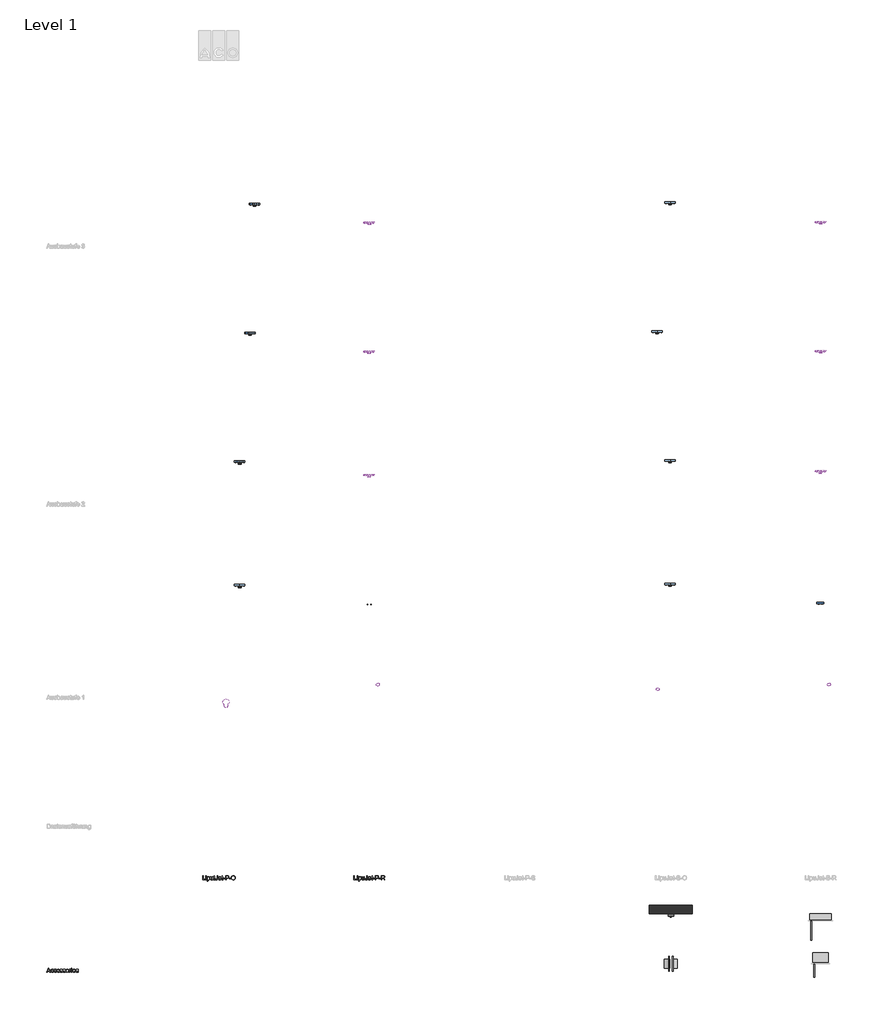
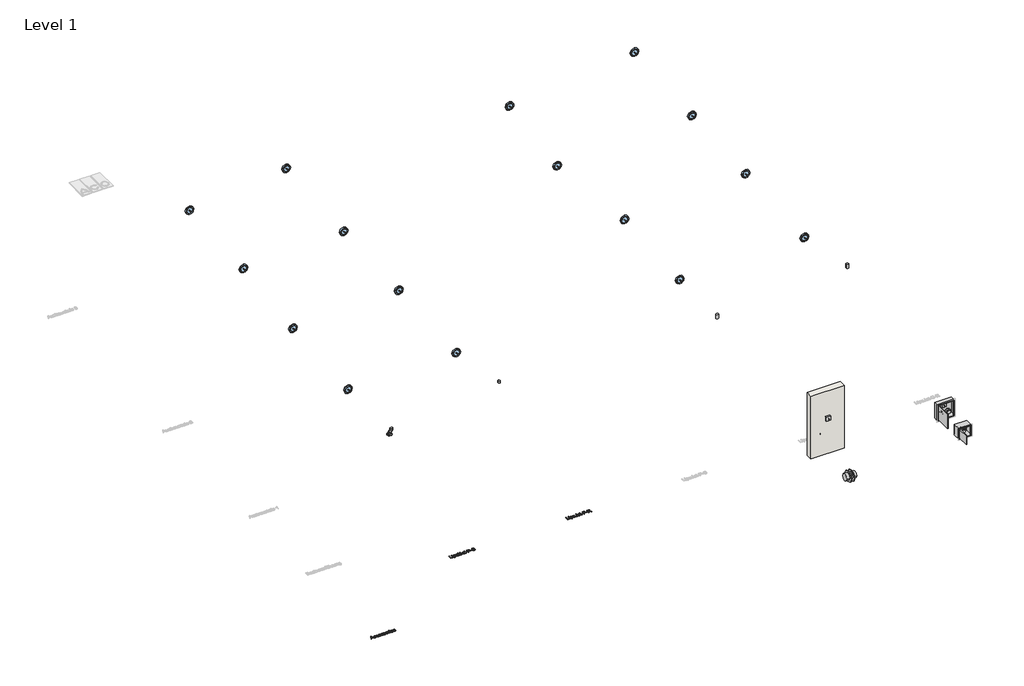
# One storey, part 1 of 3: 16 windows, 5 proxies, 4 unitary equipment elements, 2 furniture elements, 2 pipe fittings, 1 wall.
"""IFC4 building model written with IfcOpenShell, lengths in millimetres."""

from ifc_helpers import new_model, si_unit, origin, origin_with_axes, place, context, project, spatial, polyline, outline, extrude, transform, mapped, element, save
from components import cd_pvc_remote_control_aco_std_7b1f1c58, furniture_370x330x250_330b71c9, furniture_500x500x160_cb3627f5, std_2dac5c2e, ns2_aebbb962, ns2_601247f1, ns4_c199ca5a, ns4_fcfb2e82, std_43f00bc0

model = new_model("IFC4")

# Units and contexts
model_context = context("Model", 3, world=origin())
ifc_project = project(units=[si_unit("LENGTHUNIT", "METRE", prefix="MILLI")], contexts=[model_context])

# Site, building, storey
site = spatial("IfcSite", under=ifc_project)
building = spatial("IfcBuilding", under=site)
storey = spatial("IfcBuildingStorey", under=building, Name="Level 1", Elevation=0.0)

# Proxies
placement = place(None, origin())
element("IfcBuildingElementProxy", 1, Name="100mm ACO", ObjectType="100mm ACO", at=placement, inside=storey, context=model_context, shape_type="SweptSolid", body=[
    extrude(outline(polyline([(683.3333333, -350.0), (620.3703704, -350.0), (620.3703704, -250.0), (633.3333333, -250.0), (633.3333333, -338.8888889), (683.3333333, -338.8888889), (683.3333333, -350.0)])), origin_with_axes(), (0.0, 0.0, 1.0), 10.0),
    extrude(outline(polyline([(709.2592593, -350.0), (696.2962963, -350.0), (696.2962963, -277.7777778), (709.2592593, -277.7777778), (709.2592593, -350.0)])), origin_with_axes(), (0.0, 0.0, 1.0), 10.0),
    extrude(outline(polyline([(709.2592593, -262.962963), (696.2962963, -262.962963), (696.2962963, -250.0), (709.2592593, -250.0), (709.2592593, -262.962963)])), origin_with_axes(), (0.0, 0.0, 1.0), 10.0),
    extrude(outline(polyline([(740.8709491, -286.4872685), (749.3272569, -278.5662616), (760.9953704, -275.9259259), (773.3217593, -278.515625), (782.7546296, -286.2847222), (788.744213, -298.2132523), (790.7407407, -313.28125), (788.4837963, -329.1702836), (781.712963, -341.4207176), (771.6579861, -349.2440683), (759.5486111, -351.8518519), (749.1753472, -349.7251157), (741.087963, -343.3449074), (740.7407407, -377.7777778), (727.7777778, -377.7777778), (727.7777778, -277.7777778), (740.7407407, -277.7777778), (740.8709491, -286.4872685)]), holes=[polyline([(758.130787, -342.5925926), (765.9035012, -340.766059), (772.2077546, -335.2864583), (776.385272, -326.1899595), (777.7777778, -313.5127315), (776.4359086, -301.4359086), (772.4103009, -292.5202546), (766.2941262, -287.0189525), (758.6805556, -285.1851852), (750.7993345, -287.2287326), (744.458912, -293.359375), (740.2813947, -302.7452257), (738.8888889, -314.5543981), (740.2235243, -326.66739), (744.2274306, -335.4600694), (750.3725405, -340.8094618), (758.130787, -342.5925926)])]), origin_with_axes(), (0.0, 0.0, 1.0), 10.0),
    extrude(outline(polyline([(864.8148148, -350.0), (853.7037037, -350.0), (853.7037037, -339.4965278), (843.4606481, -348.7630208), (830.4976852, -351.8518519), (816.3773148, -348.3362269), (807.7256944, -338.6574074), (805.5555556, -322.65625), (805.5555556, -277.7777778), (818.5185185, -277.7777778), (818.5185185, -318.75), (819.4155093, -332.8414352), (824.1030093, -339.84375), (833.130787, -342.5925926), (845.8767361, -337.6736111), (850.3580729, -330.1215278), (851.8518519, -317.3032407), (851.8518519, -277.7777778), (864.8148148, -277.7777778), (864.8148148, -350.0)])), origin_with_axes(), (0.0, 0.0, 1.0), 10.0),
    extrude(outline(polyline([(911.1111111, -351.0127315), (902.025463, -351.8518519), (890.4369213, -348.9728009), (885.9953704, -341.6666667), (885.1851852, -329.3402778), (885.1851852, -287.037037), (875.9259259, -287.037037), (875.9259259, -277.7777778), (885.1851852, -277.7777778), (885.1851852, -259.4328704), (898.1481481, -251.8518519), (898.1481481, -277.7777778), (909.2592593, -277.7777778), (909.2592593, -287.037037), (898.1481481, -287.037037), (898.1481481, -331.9444444), (899.1898148, -340.162037), (904.4849537, -342.5925926), (909.5196759, -342.5925926), (911.1111111, -351.0127315)])), origin_with_axes(), (0.0, 0.0, 1.0), 10.0),
    extrude(outline(polyline([(972.2222222, -318.1134259), (970.348669, -333.8143808), (964.7280093, -344.1695602), (955.7653356, -349.9312789), (943.8657407, -351.8518519), (931.9661458, -349.9891493), (923.4664352, -344.4010417), (918.3666088, -335.0730613), (916.6666667, -321.9907407), (929.6296296, -320.3703704), (933.4924769, -335.6481481), (944.5601852, -340.7407407), (954.4994213, -337.5), (958.5069444, -330.0202546), (959.2592593, -319.4444444), (959.2592593, -250.0), (972.2222222, -250.0), (972.2222222, -318.1134259)])), origin_with_axes(), (0.0, 0.0, 1.0), 10.0),
    extrude(outline(polyline([(1053.7037037, -316.6666667), (1000.0, -316.6666667), (1002.0724826, -327.7922454), (1006.7853009, -335.9375), (1013.566985, -340.9288194), (1021.8460648, -342.5925926), (1033.521412, -338.9033565), (1040.7407407, -327.7777778), (1053.7037037, -329.2824074), (1049.3272569, -338.9033565), (1042.3900463, -346.0069444), (1033.1452546, -350.390625), (1021.8460648, -351.8518519), (1007.2591146, -349.3453414), (996.2528935, -341.8258102), (989.3410012, -329.9660012), (987.037037, -314.4386574), (989.2578125, -298.900463), (995.9201389, -286.6030093), (1006.6189236, -278.5951968), (1020.9490741, -275.9259259), (1036.1689815, -279.3836806), (1048.5966435, -291.1603009), (1052.4269387, -301.6963252), (1053.7037037, -316.6666667)]), holes=[polyline([(1040.7407407, -307.4074074), (1038.6574074, -297.2511574), (1033.912037, -290.3935185), (1020.630787, -285.1851852), (1012.7748843, -286.7332176), (1006.4525463, -291.3773148), (1000.0, -307.4074074), (1040.7407407, -307.4074074)])]), origin_with_axes(), (0.0, 0.0, 1.0), 10.0),
    extrude(outline(polyline([(1096.2962963, -351.0127315), (1087.2106481, -351.8518519), (1075.6221065, -348.9728009), (1071.1805556, -341.6666667), (1070.3703704, -329.3402778), (1070.3703704, -287.037037), (1061.1111111, -287.037037), (1061.1111111, -277.7777778), (1070.3703704, -277.7777778), (1070.3703704, -259.4328704), (1083.3333333, -251.8518519), (1083.3333333, -277.7777778), (1094.4444444, -277.7777778), (1094.4444444, -287.037037), (1083.3333333, -287.037037), (1083.3333333, -331.9444444), (1084.375, -340.162037), (1089.6701389, -342.5925926), (1094.7048611, -342.5925926), (1096.2962963, -351.0127315)])), origin_with_axes(), (0.0, 0.0, 1.0), 10.0),
    extrude(outline(polyline([(1140.7407407, -316.6666667), (1101.8518519, -316.6666667), (1101.8518519, -307.4074074), (1140.7407407, -307.4074074), (1140.7407407, -316.6666667)])), origin_with_axes(), (0.0, 0.0, 1.0), 10.0),
    extrude(outline(polyline([(1155.5555556, -250.0), (1193.1134259, -250.0), (1208.4201389, -250.8825231), (1220.3414352, -255.46875), (1228.6603009, -265.5237269), (1231.4814815, -278.8194444), (1229.2570891, -291.2507234), (1222.583912, -300.9403935), (1211.0062211, -307.1795428), (1194.068287, -309.2592593), (1168.5185185, -309.2592593), (1168.5185185, -350.0), (1155.5555556, -350.0), (1155.5555556, -250.0)]), holes=[polyline([(1168.5185185, -298.1481481), (1194.5891204, -298.1481481), (1212.536169, -293.4100116), (1217.0229311, -287.4873409), (1218.5185185, -279.1956019), (1215.4079861, -268.2146991), (1207.7690972, -262.2829861), (1194.2997685, -261.1111111), (1168.5185185, -261.1111111), (1168.5185185, -298.1481481)])]), origin_with_axes(), (0.0, 0.0, 1.0), 10.0),
    extrude(outline(polyline([(1279.6296296, -316.6666667), (1240.7407407, -316.6666667), (1240.7407407, -307.4074074), (1279.6296296, -307.4074074), (1279.6296296, -316.6666667)])), origin_with_axes(), (0.0, 0.0, 1.0), 10.0),
    extrude(outline(polyline([(1337.1238426, -248.1481481), (1355.6134259, -251.7216435), (1370.3993056, -262.4421296), (1380.0998264, -279.0147569), (1383.3333333, -300.1446759), (1380.0817419, -321.1841725), (1370.3269676, -337.6591435), (1355.5230035, -348.3036748), (1337.1238426, -351.8518519), (1318.2508681, -348.1734664), (1303.4722222, -337.1383102), (1293.9236111, -320.808015), (1290.7407407, -301.244213), (1293.9670139, -279.1630498), (1303.6458333, -262.3408565), (1318.4678819, -251.6963252), (1337.1238426, -248.1481481)]), holes=[polyline([(1337.0081019, -340.7407407), (1350.4484954, -338.0570023), (1361.0821759, -330.005787), (1368.0193866, -317.1730324), (1370.3703704, -300.1446759), (1368.0157697, -282.7365451), (1360.9519676, -269.8640046), (1350.3219039, -261.9104456), (1337.2685185, -259.2592593), (1323.9221644, -261.8561921), (1313.1655093, -269.6469907), (1306.0691551, -282.8052662), (1303.7037037, -301.5046296), (1306.0185185, -317.3864294), (1312.962963, -329.9045139), (1323.6038773, -338.031684), (1337.0081019, -340.7407407)])]), origin_with_axes(), (0.0, 0.0, 1.0), 10.0),
])
element("IfcBuildingElementProxy", 2, Name="100mm ACO", ObjectType="100mm ACO", at=placement, inside=storey, context=model_context, shape_type="SweptSolid", body=[
    extrude(outline(polyline([(4206.4814815, -350.0), (4143.5185185, -350.0), (4143.5185185, -250.0), (4156.4814815, -250.0), (4156.4814815, -338.8888889), (4206.4814815, -338.8888889), (4206.4814815, -350.0)])), origin_with_axes(), (0.0, 0.0, 1.0), 10.0),
    extrude(outline(polyline([(4232.4074074, -350.0), (4219.4444444, -350.0), (4219.4444444, -277.7777778), (4232.4074074, -277.7777778), (4232.4074074, -350.0)])), origin_with_axes(), (0.0, 0.0, 1.0), 10.0),
    extrude(outline(polyline([(4232.4074074, -262.962963), (4219.4444444, -262.962963), (4219.4444444, -250.0), (4232.4074074, -250.0), (4232.4074074, -262.962963)])), origin_with_axes(), (0.0, 0.0, 1.0), 10.0),
    extrude(outline(polyline([(4264.0190972, -286.4872685), (4272.4754051, -278.5662616), (4284.1435185, -275.9259259), (4296.4699074, -278.515625), (4305.9027778, -286.2847222), (4311.8923611, -298.2132523), (4313.8888889, -313.28125), (4311.6319444, -329.1702836), (4304.8611111, -341.4207176), (4294.8061343, -349.2440683), (4282.6967593, -351.8518519), (4272.3234954, -349.7251157), (4264.2361111, -343.3449074), (4263.8888889, -377.7777778), (4250.9259259, -377.7777778), (4250.9259259, -277.7777778), (4263.8888889, -277.7777778), (4264.0190972, -286.4872685)]), holes=[polyline([(4281.2789352, -342.5925926), (4289.0516493, -340.766059), (4295.3559028, -335.2864583), (4299.5334201, -326.1899595), (4300.9259259, -313.5127315), (4299.5840567, -301.4359086), (4295.5584491, -292.5202546), (4289.4422743, -287.0189525), (4281.8287037, -285.1851852), (4273.9474826, -287.2287326), (4267.6070602, -293.359375), (4263.4295428, -302.7452257), (4262.037037, -314.5543981), (4263.3716725, -326.66739), (4267.3755787, -335.4600694), (4273.5206887, -340.8094618), (4281.2789352, -342.5925926)])]), origin_with_axes(), (0.0, 0.0, 1.0), 10.0),
    extrude(outline(polyline([(4387.962963, -350.0), (4376.8518519, -350.0), (4376.8518519, -339.4965278), (4366.6087963, -348.7630208), (4353.6458333, -351.8518519), (4339.525463, -348.3362269), (4330.8738426, -338.6574074), (4328.7037037, -322.65625), (4328.7037037, -277.7777778), (4341.6666667, -277.7777778), (4341.6666667, -318.75), (4342.5636574, -332.8414352), (4347.2511574, -339.84375), (4356.2789352, -342.5925926), (4369.0248843, -337.6736111), (4373.5062211, -330.1215278), (4375.0, -317.3032407), (4375.0, -277.7777778), (4387.962963, -277.7777778), (4387.962963, -350.0)])), origin_with_axes(), (0.0, 0.0, 1.0), 10.0),
    extrude(outline(polyline([(4456.4814815, -318.1134259), (4454.6079282, -333.8143808), (4448.9872685, -344.1695602), (4440.0245949, -349.9312789), (4428.125, -351.8518519), (4416.2254051, -349.9891493), (4407.7256944, -344.4010417), (4402.6258681, -335.0730613), (4400.9259259, -321.9907407), (4413.8888889, -320.3703704), (4417.7517361, -335.6481481), (4428.8194444, -340.7407407), (4438.7586806, -337.5), (4442.7662037, -330.0202546), (4443.5185185, -319.4444444), (4443.5185185, -250.0), (4456.4814815, -250.0), (4456.4814815, -318.1134259)])), origin_with_axes(), (0.0, 0.0, 1.0), 10.0),
    extrude(outline(polyline([(4537.962963, -316.6666667), (4484.2592593, -316.6666667), (4486.3317419, -327.7922454), (4491.0445602, -335.9375), (4497.8262442, -340.9288194), (4506.1053241, -342.5925926), (4517.7806713, -338.9033565), (4525.0, -327.7777778), (4537.962963, -329.2824074), (4533.5865162, -338.9033565), (4526.6493056, -346.0069444), (4517.4045139, -350.390625), (4506.1053241, -351.8518519), (4491.5183738, -349.3453414), (4480.5121528, -341.8258102), (4473.6002604, -329.9660012), (4471.2962963, -314.4386574), (4473.5170718, -298.900463), (4480.1793981, -286.6030093), (4490.8781829, -278.5951968), (4505.2083333, -275.9259259), (4520.4282407, -279.3836806), (4532.8559028, -291.1603009), (4536.6861979, -301.6963252), (4537.962963, -316.6666667)]), holes=[polyline([(4525.0, -307.4074074), (4522.9166667, -297.2511574), (4518.1712963, -290.3935185), (4504.8900463, -285.1851852), (4497.0341435, -286.7332176), (4490.7118056, -291.3773148), (4484.2592593, -307.4074074), (4525.0, -307.4074074)])]), origin_with_axes(), (0.0, 0.0, 1.0), 10.0),
    extrude(outline(polyline([(4580.5555556, -351.0127315), (4571.4699074, -351.8518519), (4559.8813657, -348.9728009), (4555.4398148, -341.6666667), (4554.6296296, -329.3402778), (4554.6296296, -287.037037), (4545.3703704, -287.037037), (4545.3703704, -277.7777778), (4554.6296296, -277.7777778), (4554.6296296, -259.4328704), (4567.5925926, -251.8518519), (4567.5925926, -277.7777778), (4578.7037037, -277.7777778), (4578.7037037, -287.037037), (4567.5925926, -287.037037), (4567.5925926, -331.9444444), (4568.6342593, -340.162037), (4573.9293981, -342.5925926), (4578.9641204, -342.5925926), (4580.5555556, -351.0127315)])), origin_with_axes(), (0.0, 0.0, 1.0), 10.0),
    extrude(outline(polyline([(4625.0, -316.6666667), (4586.1111111, -316.6666667), (4586.1111111, -307.4074074), (4625.0, -307.4074074), (4625.0, -316.6666667)])), origin_with_axes(), (0.0, 0.0, 1.0), 10.0),
    extrude(outline(polyline([(4639.8148148, -250.0), (4677.3726852, -250.0), (4692.6793981, -250.8825231), (4704.6006944, -255.46875), (4712.9195602, -265.5237269), (4715.7407407, -278.8194444), (4713.5163484, -291.2507234), (4706.8431713, -300.9403935), (4695.2654803, -307.1795428), (4678.3275463, -309.2592593), (4652.7777778, -309.2592593), (4652.7777778, -350.0), (4639.8148148, -350.0), (4639.8148148, -250.0)]), holes=[polyline([(4652.7777778, -298.1481481), (4678.8483796, -298.1481481), (4696.7954282, -293.4100116), (4701.2821904, -287.4873409), (4702.7777778, -279.1956019), (4699.6672454, -268.2146991), (4692.0283565, -262.2829861), (4678.5590278, -261.1111111), (4652.7777778, -261.1111111), (4652.7777778, -298.1481481)])]), origin_with_axes(), (0.0, 0.0, 1.0), 10.0),
    extrude(outline(polyline([(4763.8888889, -316.6666667), (4725.0, -316.6666667), (4725.0, -307.4074074), (4763.8888889, -307.4074074), (4763.8888889, -316.6666667)])), origin_with_axes(), (0.0, 0.0, 1.0), 10.0),
    extrude(outline(polyline([(4866.2037037, -350.0), (4851.2152778, -350.0), (4832.4508102, -320.1388889), (4824.681713, -311.009838), (4816.9560185, -306.4959491), (4807.3784722, -305.5555556), (4791.6666667, -305.5555556), (4791.6666667, -350.0), (4778.7037037, -350.0), (4778.7037037, -250.0), (4822.8298611, -250.0), (4838.0063657, -251.1429398), (4848.7413194, -255.9461806), (4855.8449074, -265.1765046), (4858.3333333, -276.9097222), (4856.5176505, -286.9610822), (4851.0706019, -294.8350694), (4842.2019676, -300.3797743), (4830.1215278, -303.443287), (4839.7786458, -310.9302662), (4848.8425926, -322.5983796), (4866.2037037, -350.0)]), holes=[polyline([(4791.6666667, -294.4444444), (4820.4282407, -294.4444444), (4834.2158565, -292.96875), (4842.3321759, -287.2251157), (4845.3703704, -277.6331019), (4840.3211806, -265.9288194), (4833.6335359, -262.3155382), (4823.6689815, -261.1111111), (4791.6666667, -261.1111111), (4791.6666667, -294.4444444)])]), origin_with_axes(), (0.0, 0.0, 1.0), 10.0),
])
element("IfcBuildingElementProxy", 3, Name="100mm ACO", ObjectType="100mm ACO", at=placement, inside=storey, context=model_context, shape_type="SweptSolid", body=[
    extrude(outline(polyline([(-2915.72885, -2500.0), (-2929.5309333, -2500.0), (-2941.5101, -2470.3703704), (-2983.9580167, -2470.3703704), (-2995.4742204, -2500.0), (-3009.2473685, -2500.0), (-2970.3874148, -2400.0), (-2956.2091741, -2400.0), (-2915.72885, -2500.0)]), holes=[polyline([(-2946.0239889, -2459.2592593), (-2960.4481787, -2422.5983796), (-2963.4140352, -2410.9375), (-2968.0726, -2429.5138889), (-2979.6177389, -2459.2592593), (-2946.0239889, -2459.2592593)])]), origin_with_axes(), (0.0, 0.0, 1.0), 10.0),
    extrude(outline(polyline([(-2845.8214426, -2475.5497685), (-2849.8506671, -2487.3553241), (-2857.0193593, -2495.5150463), (-2866.3437227, -2500.2676505), (-2876.8399611, -2501.8518519), (-2891.155644, -2499.2621528), (-2901.8110259, -2491.4930556), (-2908.4299495, -2479.4487847), (-2910.6362574, -2464.0335648), (-2905.6015352, -2441.3483796), (-2893.000262, -2429.3836806), (-2877.1003778, -2425.9259259), (-2857.6414657, -2431.5827546), (-2851.1057308, -2438.566985), (-2847.6732944, -2448.2060185), (-2860.6362574, -2450.0), (-2866.5390352, -2438.9033565), (-2876.9557019, -2435.1851852), (-2885.9111417, -2437.0695891), (-2892.4070907, -2442.7228009), (-2896.3567435, -2451.7541956), (-2897.6732944, -2463.7731481), (-2896.3531266, -2476.0018808), (-2892.3926231, -2485.083912), (-2885.9436937, -2490.7154225), (-2877.1582481, -2492.5925926), (-2864.556975, -2487.962963), (-2858.7844056, -2474.0740741), (-2845.8214426, -2475.5497685)])), origin_with_axes(), (0.0, 0.0, 1.0), 10.0),
    extrude(outline(polyline([(-2777.3029241, -2475.5497685), (-2781.3321486, -2487.3553241), (-2788.5008407, -2495.5150463), (-2797.8252042, -2500.2676505), (-2808.3214426, -2501.8518519), (-2822.6371255, -2499.2621528), (-2833.2925074, -2491.4930556), (-2839.911431, -2479.4487847), (-2842.1177389, -2464.0335648), (-2837.0830167, -2441.3483796), (-2824.4817435, -2429.3836806), (-2808.5818593, -2425.9259259), (-2789.1229472, -2431.5827546), (-2782.5872123, -2438.566985), (-2779.1547759, -2448.2060185), (-2792.1177389, -2450.0), (-2798.0205167, -2438.9033565), (-2808.4371833, -2435.1851852), (-2817.3926231, -2437.0695891), (-2823.8885722, -2442.7228009), (-2827.838225, -2451.7541956), (-2829.1547759, -2463.7731481), (-2827.8346081, -2476.0018808), (-2823.8741046, -2485.083912), (-2817.4251752, -2490.7154225), (-2808.6397296, -2492.5925926), (-2796.0384565, -2487.962963), (-2790.265887, -2474.0740741), (-2777.3029241, -2475.5497685)])), origin_with_axes(), (0.0, 0.0, 1.0), 10.0),
    extrude(outline(polyline([(-2706.9325537, -2466.6666667), (-2760.6362574, -2466.6666667), (-2758.5637748, -2477.7922454), (-2753.8509565, -2485.9375), (-2747.0692725, -2490.9288194), (-2738.7901926, -2492.5925926), (-2727.1148454, -2488.9033565), (-2719.8955167, -2477.7777778), (-2706.9325537, -2479.2824074), (-2711.3090005, -2488.9033565), (-2718.2462111, -2496.0069444), (-2727.4910028, -2500.390625), (-2738.7901926, -2501.8518519), (-2753.3771428, -2499.3453414), (-2764.3833639, -2491.8258102), (-2771.2952562, -2479.9660012), (-2773.5992204, -2464.4386574), (-2771.3784449, -2448.900463), (-2764.7161185, -2436.6030093), (-2754.0173338, -2428.5951968), (-2739.6871833, -2425.9259259), (-2724.4672759, -2429.3836806), (-2712.0396139, -2441.1603009), (-2708.2093187, -2451.6963252), (-2706.9325537, -2466.6666667)]), holes=[polyline([(-2719.8955167, -2457.4074074), (-2721.97885, -2447.2511574), (-2726.7242204, -2440.3935185), (-2740.0054704, -2435.1851852), (-2747.8613731, -2436.7332176), (-2754.1837111, -2441.3773148), (-2760.6362574, -2457.4074074), (-2719.8955167, -2457.4074074)])]), origin_with_axes(), (0.0, 0.0, 1.0), 10.0),
    extrude(outline(polyline([(-2651.3769981, -2448.1481481), (-2656.1657713, -2438.4259259), (-2667.2334796, -2435.1851852), (-2678.547137, -2437.962963), (-2682.8584796, -2446.0358796), (-2680.0083639, -2453.1828704), (-2666.5679704, -2457.0601852), (-2648.8451694, -2461.2268519), (-2639.8029241, -2467.5491898), (-2636.5621833, -2478.8773148), (-2638.5731787, -2487.8074363), (-2644.6061648, -2495.2112269), (-2654.0028662, -2500.1916956), (-2666.1050074, -2501.8518519), (-2678.5796891, -2500.4557292), (-2687.994475, -2496.2673611), (-2694.3565988, -2489.2939815), (-2697.6732944, -2479.5428241), (-2684.7103315, -2477.7777778), (-2679.1113731, -2488.9033565), (-2666.1050074, -2492.5925926), (-2653.8075537, -2488.7586806), (-2649.5251463, -2479.4270833), (-2651.4493361, -2473.4519676), (-2656.2525769, -2470.0810185), (-2669.8376463, -2467.1875), (-2690.7722528, -2459.375), (-2695.8214426, -2446.7881944), (-2693.9515062, -2438.5018808), (-2688.3416972, -2431.8142361), (-2679.5707192, -2427.3980035), (-2668.2172759, -2425.9259259), (-2656.2851289, -2427.2135417), (-2647.3405398, -2431.0763889), (-2641.3835086, -2437.5072338), (-2638.4140352, -2446.4988426), (-2651.3769981, -2448.1481481)])), origin_with_axes(), (0.0, 0.0, 1.0), 10.0),
    extrude(outline(polyline([(-2582.8584796, -2448.1481481), (-2587.6472528, -2438.4259259), (-2598.7149611, -2435.1851852), (-2610.0286185, -2437.962963), (-2614.3399611, -2446.0358796), (-2611.4898454, -2453.1828704), (-2598.0494519, -2457.0601852), (-2580.3266509, -2461.2268519), (-2571.2844056, -2467.5491898), (-2568.0436648, -2478.8773148), (-2570.0546602, -2487.8074363), (-2576.0876463, -2495.2112269), (-2585.4843477, -2500.1916956), (-2597.5864889, -2501.8518519), (-2610.0611706, -2500.4557292), (-2619.4759565, -2496.2673611), (-2625.8380803, -2489.2939815), (-2629.1547759, -2479.5428241), (-2616.191813, -2477.7777778), (-2610.5928546, -2488.9033565), (-2597.5864889, -2492.5925926), (-2585.2890352, -2488.7586806), (-2581.0066278, -2479.4270833), (-2582.9308176, -2473.4519676), (-2587.7340583, -2470.0810185), (-2601.3191278, -2467.1875), (-2622.2537343, -2459.375), (-2627.3029241, -2446.7881944), (-2625.4329877, -2438.5018808), (-2619.8231787, -2431.8142361), (-2611.0522007, -2427.3980035), (-2599.6987574, -2425.9259259), (-2587.7666104, -2427.2135417), (-2578.8220213, -2431.0763889), (-2572.86499, -2437.5072338), (-2569.8955167, -2446.4988426), (-2582.8584796, -2448.1481481)])), origin_with_axes(), (0.0, 0.0, 1.0), 10.0),
    extrude(outline(polyline([(-2525.4800074, -2425.9259259), (-2512.3036475, -2428.3203125), (-2501.594012, -2435.5034722), (-2494.4868072, -2447.0992477), (-2492.1177389, -2462.7314815), (-2494.6821197, -2481.0040509), (-2502.375262, -2492.9976852), (-2513.28021, -2499.6383102), (-2525.4800074, -2501.8518519), (-2538.0704299, -2499.5768229), (-2548.8741046, -2492.7517361), (-2556.3068303, -2480.9859664), (-2558.7844056, -2463.8888889), (-2556.390019, -2447.1715856), (-2549.2068593, -2435.3298611), (-2538.4863731, -2428.2769097), (-2525.4800074, -2425.9259259)]), holes=[polyline([(-2525.4800074, -2492.5925926), (-2516.6728604, -2490.5852141), (-2510.2745676, -2484.5630787), (-2505.0807019, -2463.4259259), (-2506.5491625, -2451.1429398), (-2510.9545444, -2442.3032407), (-2517.5228315, -2436.9646991), (-2525.4800074, -2435.1851852), (-2533.59271, -2436.9900174), (-2540.1067435, -2442.4045139), (-2544.3927678, -2451.3925058), (-2545.8214426, -2463.9178241), (-2544.3674495, -2476.3997396), (-2540.0054704, -2485.3732639), (-2533.4661185, -2490.7877604), (-2525.4800074, -2492.5925926)])]), origin_with_axes(), (0.0, 0.0, 1.0), 10.0),
    extrude(outline(polyline([(-2438.4140352, -2428.7615741), (-2442.4649611, -2437.037037), (-2450.9719056, -2435.1851852), (-2456.7661764, -2436.8127894), (-2460.9545444, -2441.6956019), (-2464.3399611, -2459.9247685), (-2464.3399611, -2500.0), (-2477.3029241, -2500.0), (-2477.3029241, -2427.7777778), (-2466.191813, -2427.7777778), (-2466.191813, -2438.4837963), (-2459.2618361, -2429.0653935), (-2450.8272296, -2425.9259259), (-2438.4140352, -2428.7615741)])), origin_with_axes(), (0.0, 0.0, 1.0), 10.0),
    extrude(outline(polyline([(-2418.0436648, -2500.0), (-2431.0066278, -2500.0), (-2431.0066278, -2427.7777778), (-2418.0436648, -2427.7777778), (-2418.0436648, -2500.0)])), origin_with_axes(), (0.0, 0.0, 1.0), 10.0),
    extrude(outline(polyline([(-2418.0436648, -2412.962963), (-2431.0066278, -2412.962963), (-2431.0066278, -2400.0), (-2418.0436648, -2400.0), (-2418.0436648, -2412.962963)])), origin_with_axes(), (0.0, 0.0, 1.0), 10.0),
    extrude(outline(polyline([(-2336.5621833, -2466.6666667), (-2390.265887, -2466.6666667), (-2388.1934044, -2477.7922454), (-2383.4805861, -2485.9375), (-2376.6989021, -2490.9288194), (-2368.4198222, -2492.5925926), (-2356.744475, -2488.9033565), (-2349.5251463, -2477.7777778), (-2336.5621833, -2479.2824074), (-2340.9386301, -2488.9033565), (-2347.8758407, -2496.0069444), (-2357.1206324, -2500.390625), (-2368.4198222, -2501.8518519), (-2383.0067725, -2499.3453414), (-2394.0129935, -2491.8258102), (-2400.9248859, -2479.9660012), (-2403.22885, -2464.4386574), (-2401.0080745, -2448.900463), (-2394.3457481, -2436.6030093), (-2383.6469634, -2428.5951968), (-2369.316813, -2425.9259259), (-2354.0969056, -2429.3836806), (-2341.6692435, -2441.1603009), (-2337.8389484, -2451.6963252), (-2336.5621833, -2466.6666667)]), holes=[polyline([(-2349.5251463, -2457.4074074), (-2351.6084796, -2447.2511574), (-2356.35385, -2440.3935185), (-2369.6351, -2435.1851852), (-2377.4910028, -2436.7332176), (-2383.8133407, -2441.3773148), (-2390.265887, -2457.4074074), (-2349.5251463, -2457.4074074)])]), origin_with_axes(), (0.0, 0.0, 1.0), 10.0),
    extrude(outline(polyline([(-2281.0066278, -2448.1481481), (-2285.7954009, -2438.4259259), (-2296.8631093, -2435.1851852), (-2308.1767667, -2437.962963), (-2312.4881093, -2446.0358796), (-2309.6379935, -2453.1828704), (-2296.1976, -2457.0601852), (-2278.4747991, -2461.2268519), (-2269.4325537, -2467.5491898), (-2266.191813, -2478.8773148), (-2268.2028083, -2487.8074363), (-2274.2357944, -2495.2112269), (-2283.6324958, -2500.1916956), (-2295.734637, -2501.8518519), (-2308.2093187, -2500.4557292), (-2317.6241046, -2496.2673611), (-2323.9862285, -2489.2939815), (-2327.3029241, -2479.5428241), (-2314.3399611, -2477.7777778), (-2308.7410028, -2488.9033565), (-2295.734637, -2492.5925926), (-2283.4371833, -2488.7586806), (-2279.1547759, -2479.4270833), (-2281.0789657, -2473.4519676), (-2285.8822065, -2470.0810185), (-2299.4672759, -2467.1875), (-2320.4018824, -2459.375), (-2325.4510722, -2446.7881944), (-2323.5811359, -2438.5018808), (-2317.9713269, -2431.8142361), (-2309.2003488, -2427.3980035), (-2297.8469056, -2425.9259259), (-2285.9147586, -2427.2135417), (-2276.9701694, -2431.0763889), (-2271.0131382, -2437.5072338), (-2268.0436648, -2446.4988426), (-2281.0066278, -2448.1481481)])), origin_with_axes(), (0.0, 0.0, 1.0), 10.0),
])
cd_pvc_remote_control_aco_std_shape = cd_pvc_remote_control_aco_std_7b1f1c58(model_context)
element("IfcBuildingElementProxy", 4, Name="CD_PVC_remote control_ACO : std", ObjectType="CD_PVC_remote control_ACO : std", at=placement, inside=storey, context=model_context, shape_type="MappedRepresentation", body=[
    mapped(cd_pvc_remote_control_aco_std_shape, transform((11519.8362684, -1140.0, 1148.8949579), x_axis=(1.0, 0.0, 0.0), y_axis=(0.0, 0.0, 1.0), z_axis=(0.0, -1.0, 0.0))),
])
element("IfcBuildingElementProxy", 5, Name="ZZZ_do not use_CD_PVC_remote control_ACO : std", ObjectType="ZZZ_do not use_CD_PVC_remote control_ACO : std", at=placement, inside=storey, context=model_context, shape_type="MappedRepresentation", body=[
    mapped(cd_pvc_remote_control_aco_std_shape, transform((15000.0, -1142.0, 362.5), x_axis=(1.0, 0.0, 0.0), y_axis=(0.0, 0.0, 1.0), z_axis=(0.0, -1.0, 0.0))),
])

# Furniture
furniture_370x330x250_shape = furniture_370x330x250_330b71c9(model_context)
element("IfcFurniture", 6, ObjectType="ME_ST_UN_connection box single connection_ACO : 370x330x250", at=placement, inside=storey, context=model_context, shape_type="MappedRepresentation", body=[
    mapped(furniture_370x330x250_shape, transform((15000.0, -2300.0, 0.0), x_axis=(1.0, 0.0, 0.0), y_axis=(0.0, 1.0, 0.0), z_axis=(0.0, 0.0, 1.0))),
])
furniture_500x500x160_shape = furniture_500x500x160_cb3627f5(model_context)
element("IfcFurniture", 7, ObjectType="ME_ST_UN_connection box double connection_ACO : 500x500x160", at=placement, inside=storey, context=model_context, shape_type="MappedRepresentation", body=[
    mapped(furniture_500x500x160_shape, transform((15000.0, -1300.0, 0.0), x_axis=(1.0, 0.0, 0.0), y_axis=(0.0, 1.0, 0.0), z_axis=(0.0, 0.0, 1.0))),
])

# Pipe fittings
std_shape = std_2dac5c2e(model_context)
element("IfcPipeFitting", 8, ObjectType="ZZZ_do not use_PIF_ST_UN_flange_ACO : std", at=placement, inside=storey, context=model_context, shape_type="MappedRepresentation", body=[
    mapped(std_shape, transform((11549.8362684, -2300.0, 0.0), x_axis=(1.0, 0.0, 0.0), y_axis=(0.0, 1.0, 0.0), z_axis=(0.0, 0.0, 1.0))),
])
element("IfcPipeFitting", 9, ObjectType="ZZZ_do not use_PIF_ST_UN_flange_ACO : std", at=placement, inside=storey, context=model_context, shape_type="MappedRepresentation", body=[
    mapped(std_shape, transform((11489.8362684, -2300.0, 0.0), x_axis=(-1.0000000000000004, 0.0, 0.0), y_axis=(0.0, -1.0000000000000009, 0.0), z_axis=(0.0, 0.0, 1.0000000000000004))),
])

# Unitary equipment
ns2_shape = ns2_aebbb962(model_context)
element("IfcUnitaryEquipment", 10, ObjectType="ME_PE_UN_LipuJet-P-OD extension stage 1_ACO : NS2", at=placement, inside=storey, context=model_context, shape_type="MappedRepresentation", body=[
    mapped(ns2_shape, transform((1000.0, 3850.0, 0.0), x_axis=(1.0, 0.0, 0.0), y_axis=(0.0, 1.0, 0.0), z_axis=(0.0, 0.0, 1.0))),
])
ns2_2_shape = ns2_601247f1(model_context)
element("IfcUnitaryEquipment", 11, ObjectType="ME_ST_UN_LipuJet-S-OD extension stage 1_ACO : NS2", at=placement, inside=storey, context=model_context, shape_type="MappedRepresentation", body=[
    mapped(ns2_2_shape, transform((11519.8362684, 3850.0, 0.0), x_axis=(1.0, 0.0, 0.0), y_axis=(0.0, 1.0, 0.0), z_axis=(0.0, 0.0, 1.0))),
])
ns4_shape = ns4_c199ca5a(model_context)
element("IfcUnitaryEquipment", 12, ObjectType="ME_PE_UN_LipuJet-P-RD extension stage 1_ACO : NS4", at=placement, inside=storey, context=model_context, shape_type="MappedRepresentation", body=[
    mapped(ns4_shape, transform((4500.0, 3850.0, 0.0), x_axis=(1.0, 0.0, 0.0), y_axis=(0.0, 1.0, 0.0), z_axis=(0.0, 0.0, 1.0))),
])
ns4_2_shape = ns4_fcfb2e82(model_context)
element("IfcUnitaryEquipment", 13, ObjectType="ME_ST_UN_LipuJet-S-RD extension stage 1_ACO : NS4", at=placement, inside=storey, context=model_context, shape_type="MappedRepresentation", body=[
    mapped(ns4_2_shape, transform((15000.0, 3850.0, 0.0), x_axis=(1.0, 0.0, 0.0), y_axis=(0.0, 1.0, 0.0), z_axis=(0.0, 0.0, 1.0))),
])

# Wall
element("IfcWall", 14, ObjectType="Wall 1", at=placement, inside=storey, context=model_context, shape_type="SweptSolid", body=[
    extrude(outline(polyline([(12019.8362684, -1140.0), (11019.8362684, -1140.0), (11019.8362684, -940.0), (12019.8362684, -940.0), (12019.8362684, -1140.0)])), origin_with_axes(), (0.0, 0.0, 1.0), 2000.0),
])

# Windows
std_2_shape = std_43f00bc0(model_context)
element("IfcWindow", 15, ObjectType="ZZZ_do not use_ME_PE_WPB_viewing window LipuJet-P_ACO : std", at=placement, inside=storey, context=model_context, shape_type="MappedRepresentation", body=[
    mapped(std_2_shape, transform((1832.5, 15375.0, 1132.8008024), x_axis=(0.0, 0.0, 1.0), y_axis=(-1.0, 0.0, 0.0), z_axis=(0.0, -1.0, 0.0))),
])
element("IfcWindow", 16, ObjectType="ZZZ_do not use_ME_PE_WPB_viewing window LipuJet-P_ACO : std", at=placement, inside=storey, context=model_context, shape_type="MappedRepresentation", body=[
    mapped(std_2_shape, transform((1727.5, 12375.0, 1130.5), x_axis=(0.0, 0.0, 1.0), y_axis=(-1.0, 0.0, 0.0), z_axis=(0.0, -1.0, 0.0))),
])
element("IfcWindow", 17, ObjectType="ZZZ_do not use_ME_PE_WPB_viewing window LipuJet-P_ACO : std", at=placement, inside=storey, context=model_context, shape_type="MappedRepresentation", body=[
    mapped(std_2_shape, transform((4500.0, 11942.5, 1606.5), x_axis=(0.0, 0.0, 1.0), y_axis=(-1.0, 0.0, 0.0), z_axis=(0.0, -1.0, 0.0))),
])
element("IfcWindow", 18, ObjectType="ZZZ_do not use_ME_PE_WPB_viewing window LipuJet-P_ACO : std", at=placement, inside=storey, context=model_context, shape_type="MappedRepresentation", body=[
    mapped(std_2_shape, transform((4500.0, 14942.5, 1796.5), x_axis=(0.0, 0.0, 1.0), y_axis=(-1.0, 0.0, 0.0), z_axis=(0.0, -1.0, 0.0))),
])
element("IfcWindow", 19, ObjectType="ZZZ_do not use_ME_PE_WPB_viewing window LipuJet-P_ACO : std", at=placement, inside=storey, context=model_context, shape_type="MappedRepresentation", body=[
    mapped(std_2_shape, transform((4500.0, 6070.0, 1302.0), x_axis=(0.0, 0.0, 1.0), y_axis=(-1.0, 0.0, 0.0), z_axis=(0.0, -1.0, 0.0))),
])
element("IfcWindow", 20, ObjectType="ZZZ_do not use_ME_PE_WPB_viewing window LipuJet-P_ACO : std", at=placement, inside=storey, context=model_context, shape_type="MappedRepresentation", body=[
    mapped(std_2_shape, transform((1487.5, 6500.0, 930.5), x_axis=(0.0, 0.0, 1.0), y_axis=(-1.0, 0.0, 0.0), z_axis=(0.0, -1.0, 0.0))),
])
element("IfcWindow", 21, ObjectType="ZZZ_do not use_ME_PE_WPB_viewing window LipuJet-P_ACO : std", at=placement, inside=storey, context=model_context, shape_type="MappedRepresentation", body=[
    mapped(std_2_shape, transform((1487.5, 9375.0, 1130.5), x_axis=(0.0, 0.0, 1.0), y_axis=(-1.0, 0.0, 0.0), z_axis=(0.0, -1.0, 0.0))),
])
element("IfcWindow", 22, ObjectType="ZZZ_do not use_ME_PE_WPB_viewing window LipuJet-P_ACO : std", at=placement, inside=storey, context=model_context, shape_type="MappedRepresentation", body=[
    mapped(std_2_shape, transform((4500.0, 9070.0, 1472.0), x_axis=(0.0, 0.0, 1.0), y_axis=(-1.0, 0.0, 0.0), z_axis=(0.0, -1.0, 0.0))),
])
element("IfcWindow", 23, ObjectType="ZZZ_do not use_ME_PE_WPB_viewing window LipuJet-S_ACO : std", at=placement, inside=storey, context=model_context, shape_type="MappedRepresentation", body=[
    mapped(std_2_shape, transform((11199.5, 12407.5, 1069.5), x_axis=(0.0, 0.0, 1.0), y_axis=(-1.0, 0.0, 0.0), z_axis=(0.0, -1.0, 0.0))),
])
element("IfcWindow", 24, ObjectType="ZZZ_do not use_ME_PE_WPB_viewing window LipuJet-S_ACO : std", at=placement, inside=storey, context=model_context, shape_type="MappedRepresentation", body=[
    mapped(std_2_shape, transform((11499.5, 15407.5, 1049.5), x_axis=(0.0, 0.0, 1.0), y_axis=(-1.0, 0.0, 0.0), z_axis=(0.0, -1.0, 0.0))),
])
element("IfcWindow", 25, ObjectType="ZZZ_do not use_ME_PE_WPB_viewing window LipuJet-S_ACO : std", at=placement, inside=storey, context=model_context, shape_type="MappedRepresentation", body=[
    mapped(std_2_shape, transform((11499.5, 6532.5, 899.5), x_axis=(0.0, 0.0, 1.0), y_axis=(-1.0, 0.0, 0.0), z_axis=(0.0, -1.0, 0.0))),
])
element("IfcWindow", 26, ObjectType="ZZZ_do not use_ME_PE_WPB_viewing window LipuJet-S_ACO : std", at=placement, inside=storey, context=model_context, shape_type="MappedRepresentation", body=[
    mapped(std_2_shape, transform((11499.5, 9407.5, 1069.5), x_axis=(0.0, 0.0, 1.0), y_axis=(-1.0, 0.0, 0.0), z_axis=(0.0, -1.0, 0.0))),
])
element("IfcWindow", 27, ObjectType="ZZZ_do not use_ME_PE_WPB_viewing window LipuJet-S_ACO : std", at=placement, inside=storey, context=model_context, shape_type="MappedRepresentation", body=[
    mapped(std_2_shape, transform((15000.0, 11953.5, 1617.8), x_axis=(0.0, 0.0, 1.0), y_axis=(-1.0, 0.0, 0.0), z_axis=(0.0, -1.0, 0.0))),
])
element("IfcWindow", 28, ObjectType="ZZZ_do not use_ME_PE_WPB_viewing window LipuJet-S_ACO : std", at=placement, inside=storey, context=model_context, shape_type="MappedRepresentation", body=[
    mapped(std_2_shape, transform((15000.0, 14953.5, 1817.8), x_axis=(0.0, 0.0, 1.0), y_axis=(-1.0, 0.0, 0.0), z_axis=(0.0, -1.0, 0.0))),
])
element("IfcWindow", 29, ObjectType="ZZZ_do not use_ME_PE_WPB_viewing window LipuJet-S_ACO : std", at=placement, inside=storey, context=model_context, shape_type="MappedRepresentation", body=[
    mapped(std_2_shape, transform((15000.0, 6081.0, 1290.5), x_axis=(0.0, 0.0, 1.0), y_axis=(-1.0, 0.0, 0.0), z_axis=(0.0, -1.0, 0.0))),
])
element("IfcWindow", 30, ObjectType="ZZZ_do not use_ME_PE_WPB_viewing window LipuJet-S_ACO : std", at=placement, inside=storey, context=model_context, shape_type="MappedRepresentation", body=[
    mapped(std_2_shape, transform((15000.0, 9153.0, 1460.5), x_axis=(0.0, 0.0, 1.0), y_axis=(-1.0, 0.0, 0.0), z_axis=(0.0, -1.0, 0.0))),
])

save(model, "model.ifc")
